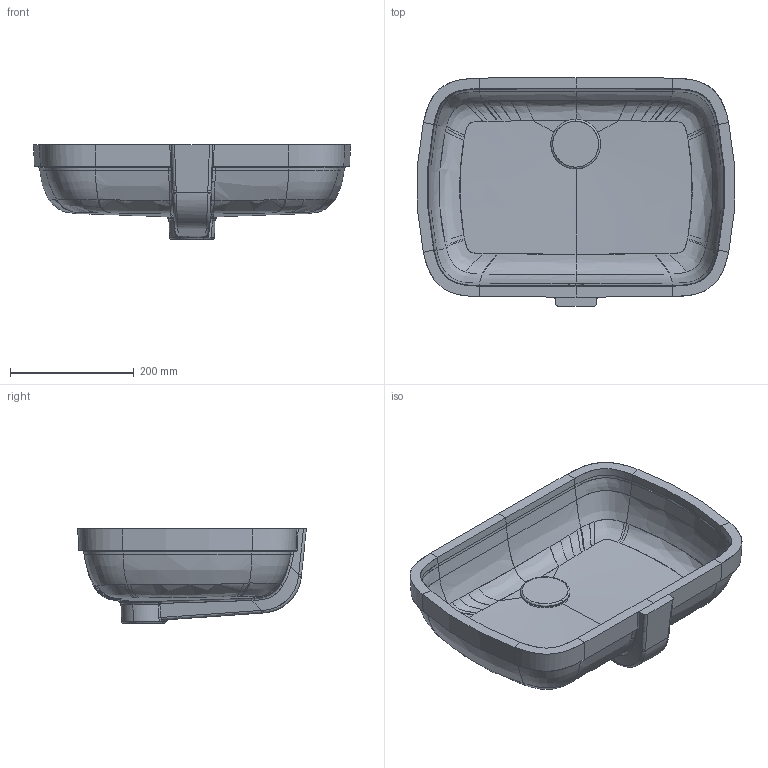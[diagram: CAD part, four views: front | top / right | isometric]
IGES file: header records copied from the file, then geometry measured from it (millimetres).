
Global section: file name: d:\users\matthias.isele\Desktop\Planungsdaten_erstellen\Keramik\Qatego\039848\3D\039848.igs; native system: Rhinoceros ( Sep 13 2016 ); preprocessor: Trout Lake IGES 012 Sep 13 2016; date: 221027.051737; units: millimetre
Bounding box: 511.61 x 369 x 152.36 mm (x, y, z)
Surface area: 616689.3 mm2 (no closed solid volume)
Topology: 0 solids, 0 shells, 325 faces, 2527 edges, 2525 vertices
Faces by surface type: bspline 325
